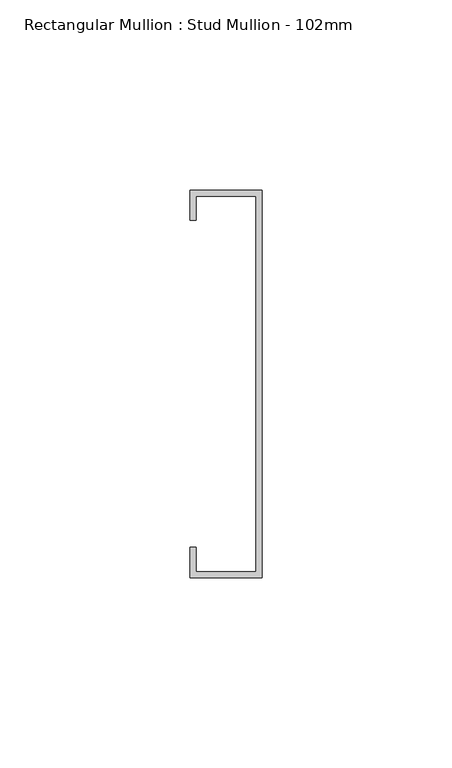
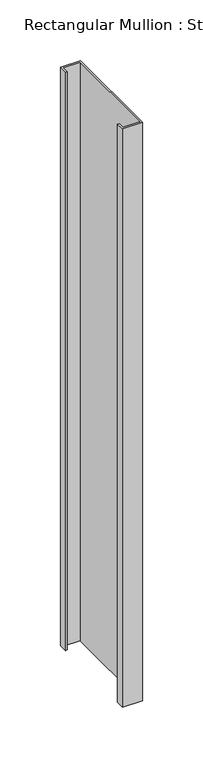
"""IFC4 building model written with IfcOpenShell, lengths in millimetres: member geometry, Rectangular Mullion : Stud Mullion - 102mm."""

from ifc_helpers import new_model, si_unit, frame, origin, place, context, project, spatial, polyline, outline, extrude, source, transform, mapped, element, save


def rectangular_mullion_stud_mullion_102mm_93af41ff(model_context):
    return source(origin(), model_context, "Body", "SweptSolid", [
        extrude(outline(polyline([(-19.0, 43.0), (-19.0, 51.0), (0.0, 51.0), (0.0, -51.0), (-19.0, -51.0), (-19.0, -43.0), (-17.4, -43.0), (-17.4, -49.4), (-1.6, -49.4), (-1.6, 49.4), (-17.4, 49.4), (-17.4, 43.0), (-19.0, 43.0)])), frame((0.0, 0.0, -581.0000003), z_axis=(0.0, 0.0, 1.0), x_axis=(1.0, 0.0, 0.0)), (0.0, 0.0, 1.0), 581.0000003),
    ])


if __name__ == "__main__":
    model = new_model("IFC4")
    model_context = context("Model", 3, world=origin())
    ifc_project = project(units=[si_unit("LENGTHUNIT", "METRE", prefix="MILLI")], contexts=[model_context])
    site = spatial("IfcSite", under=ifc_project)
    building = spatial("IfcBuilding", under=site)
    placement = place(None, origin())
    rectangular_mullion_stud_mullion_102mm_shape = rectangular_mullion_stud_mullion_102mm_93af41ff(model_context)
    element("IfcMember", 1, ObjectType="Rectangular Mullion : Stud Mullion - 102mm", at=placement, inside=building, context=model_context, shape_type="MappedRepresentation", body=[
        mapped(rectangular_mullion_stud_mullion_102mm_shape, transform((0.0, 0.0, 0.0), x_axis=(1.0, 0.0, 0.0), y_axis=(0.0, 1.0, 0.0), z_axis=(0.0, 0.0, 1.0))),
    ])
    save(model, "model.ifc")
